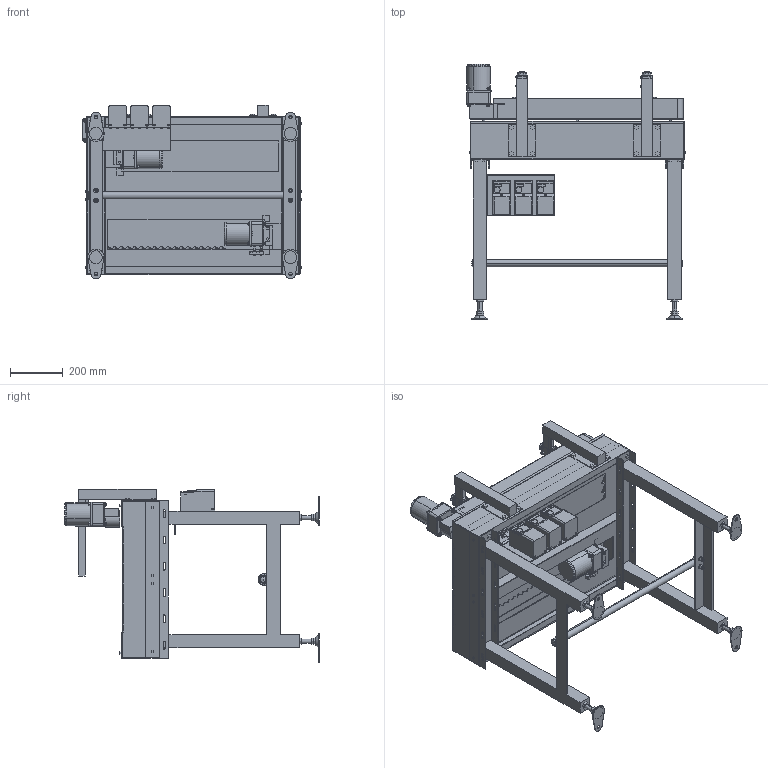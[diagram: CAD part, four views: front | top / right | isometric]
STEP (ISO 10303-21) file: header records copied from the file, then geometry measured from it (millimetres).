
FILE_DESCRIPTION( (''), '2;1');
FILE_NAME ('SGA-304x3-400-L-IVH-15-A.stp','2025-01-31T09:10:08',(''),(''),'spGate 20.6.2 (****-****-****-****)','','');
FILE_SCHEMA (('AUTOMOTIVE_DESIGN'));
Length unit declared in the file: millimetre
Products named in the file (91): NewModel; TEMP_X_T-prt0; TEMP_X_T-prt1; TEMP_X_T-prt2; TEMP_X_T-prt3; TEMP_X_T-prt4; TEMP_X_T-prt5; TEMP_X_T-prt6; TEMP_X_T-prt7; TEMP_X_T-prt8; TEMP_X_T-prt9; TEMP_X_T-prt10; TEMP_X_T-prt11; TEMP_X_T-prt12; TEMP_X_T-prt13; TEMP_X_T-prt14; TEMP_X_T-prt15; TEMP_X_T-prt16; TEMP_X_T-prt17; TEMP_X_T-prt18; TEMP_X_T-prt19; TEMP_X_T-prt20; TEMP_X_T-prt21; TEMP_X_T-prt22; TEMP_X_T-prt23; TEMP_X_T-prt24; TEMP_X_T-prt25; TEMP_X_T-prt26; TEMP_X_T-prt27; TEMP_X_T-prt28; TEMP_X_T-prt29; TEMP_X_T-prt30; TEMP_X_T-prt31; TEMP_X_T-prt32; TEMP_X_T-prt33; TEMP_X_T-prt34; TEMP_X_T-prt35; TEMP_X_T-prt36; TEMP_X_T-prt37; TEMP_X_T-prt38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
Assembly tree (90 placements, depth 2):
  NewModel
    TEMP_X_T-prt0
    TEMP_X_T-prt1
    TEMP_X_T-prt2
    TEMP_X_T-prt3
    TEMP_X_T-prt4
    TEMP_X_T-prt5
    TEMP_X_T-prt6
    TEMP_X_T-prt7
    TEMP_X_T-prt8
    TEMP_X_T-prt9
    TEMP_X_T-prt10
    TEMP_X_T-prt11
    TEMP_X_T-prt12
    TEMP_X_T-prt13
    TEMP_X_T-prt14
    TEMP_X_T-prt15
    TEMP_X_T-prt16
    TEMP_X_T-prt17
    TEMP_X_T-prt18
    TEMP_X_T-prt19
    TEMP_X_T-prt20
    TEMP_X_T-prt21
    TEMP_X_T-prt22
    TEMP_X_T-prt23
    TEMP_X_T-prt24
    TEMP_X_T-prt25
    TEMP_X_T-prt26
    TEMP_X_T-prt27
    TEMP_X_T-prt28
    TEMP_X_T-prt29
    TEMP_X_T-prt30
    TEMP_X_T-prt31
    TEMP_X_T-prt32
    TEMP_X_T-prt33
    TEMP_X_T-prt34
    TEMP_X_T-prt35
    TEMP_X_T-prt36
    TEMP_X_T-prt37
    TEMP_X_T-prt38
    TEMP_X_T-prt39
    TEMP_X_T-prt40
    TEMP_X_T-prt41
    TEMP_X_T-prt42
    TEMP_X_T-prt43
    TEMP_X_T-prt44
    TEMP_X_T-prt45
    TEMP_X_T-prt46
    TEMP_X_T-prt47
    TEMP_X_T-prt48
    TEMP_X_T-prt49
    TEMP_X_T-prt50
    TEMP_X_T-prt51
    TEMP_X_T-prt52
    TEMP_X_T-prt53
    TEMP_X_T-prt54
    TEMP_X_T-prt55
    TEMP_X_T-prt56
    TEMP_X_T-prt57
    TEMP_X_T-prt58
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Bounding box: 830.8 x 969.4 x 660 mm (x, y, z)
Volume: 24320660 mm3; surface area: 5437638.3 mm2
Topology: 90 solids, 90 shells, 3255 faces, 8046 edges, 5144 vertices
Faces by surface type: plane 2146, cylinder 750, bspline 343, sphere 16
Entity records: 167022 total; most frequent: CARTESIAN_POINT 24046, ORIENTED_EDGE 16004, DIRECTION 15041, COLOUR_RGB 11347, PRESENTATION_STYLE_ASSIGNMENT 11347, STYLED_ITEM 11347, EDGE_CURVE 8002, DRAUGHTING_PRE_DEFINED_CURVE_FONT 8002
